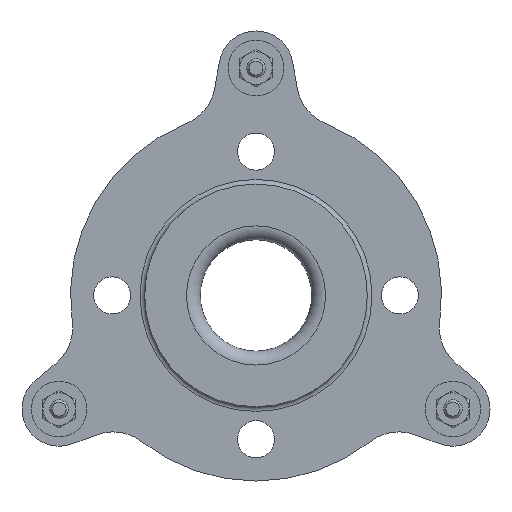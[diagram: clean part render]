
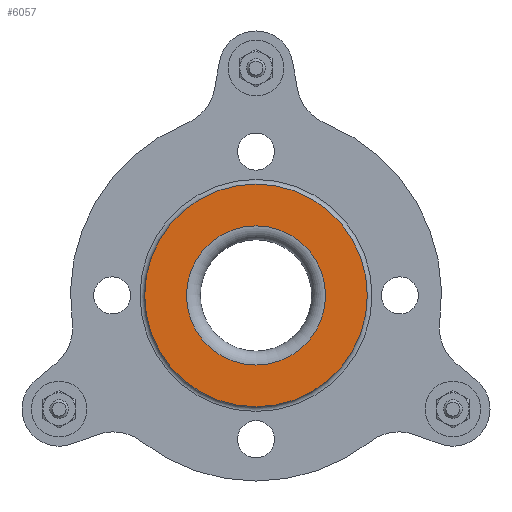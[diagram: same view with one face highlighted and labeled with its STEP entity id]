
A CAD part, left-side view. The second image highlights one B-rep face of the part: STEP entity #6057.
In plain terms, the highlighted planar face has unit normal (-1, 0, 0).
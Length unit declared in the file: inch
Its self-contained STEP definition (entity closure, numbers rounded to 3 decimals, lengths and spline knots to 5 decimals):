
#692=PLANE('',#6772);
#1307=FACE_BOUND('',#2263,.T.);
#1667=FACE_OUTER_BOUND('',#2262,.T.);
#2262=EDGE_LOOP('',(#5163));
#2263=EDGE_LOOP('',(#5164));
#2685=CIRCLE('',#6771,1.5);
#2686=CIRCLE('',#6773,0.9375);
#3146=VERTEX_POINT('',#10302);
#3147=VERTEX_POINT('',#10305);
#3836=EDGE_CURVE('',#3146,#3146,#2685,.T.);
#3837=EDGE_CURVE('',#3147,#3147,#2686,.T.);
#5163=ORIENTED_EDGE('',*,*,#3836,.T.);
#5164=ORIENTED_EDGE('',*,*,#3837,.F.);
#6057=ADVANCED_FACE('',(#1667,#1307),#692,.T.);
#6771=AXIS2_PLACEMENT_3D('',#10303,#8240,#8241);
#6772=AXIS2_PLACEMENT_3D('',#10304,#8242,#8243);
#6773=AXIS2_PLACEMENT_3D('',#10306,#8244,#8245);
#8240=DIRECTION('center_axis',(-1.,0.,0.));
#8241=DIRECTION('ref_axis',(0.,-1.,0.));
#8242=DIRECTION('center_axis',(-1.,0.,0.));
#8243=DIRECTION('ref_axis',(0.,-1.,0.));
#8244=DIRECTION('center_axis',(-1.,0.,0.));
#8245=DIRECTION('ref_axis',(0.,-1.,0.));
#10302=CARTESIAN_POINT('',(-1.1875,0.,1.5));
#10303=CARTESIAN_POINT('Origin',(-1.1875,0.,0.));
#10304=CARTESIAN_POINT('Origin',(-1.1875,0.,0.9375));
#10305=CARTESIAN_POINT('',(-1.1875,0.,0.9375));
#10306=CARTESIAN_POINT('Origin',(-1.1875,0.,0.));
